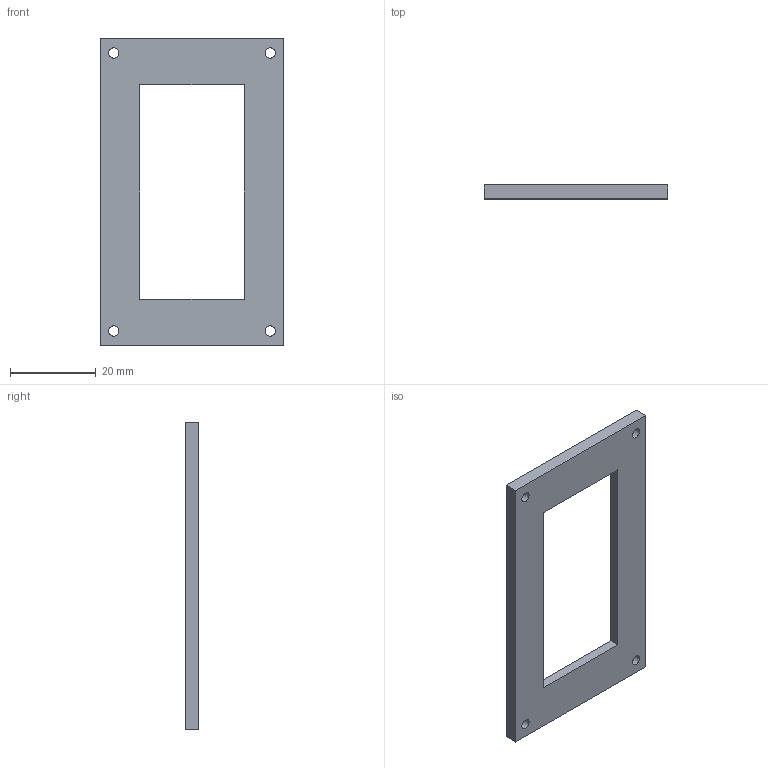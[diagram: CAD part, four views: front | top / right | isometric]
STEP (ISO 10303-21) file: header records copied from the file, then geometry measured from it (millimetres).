
FILE_DESCRIPTION(('Open CASCADE Model'),'2;1');
FILE_NAME('Open CASCADE Shape Model','2026-10-19T02:50:45',('Author'),( 'Open CASCADE'),'Open CASCADE STEP processor 7.9','Open CASCADE 7.9' ,'Unknown');
FILE_SCHEMA(('AUTOMOTIVE_DESIGN { 1 0 10303 214 1 1 1 1 }'));
Length unit declared in the file: millimetre
Products named in the file (1): Open CASCADE STEP translator 7.9 1
Bounding box: 43 x 3.2 x 72 mm (x, y, z)
Volume: 5419.5 mm3; surface area: 5035.6 mm2
Topology: 1 solids, 1 shells, 19 faces, 48 edges, 32 vertices
Faces by surface type: plane 15, cylinder 4
Full cylindrical faces by diameter (mm): 2.4 x4
Entity records: 1200 total; most frequent: CARTESIAN_POINT 220, DIRECTION 168, LINE 104, VECTOR 104, ORIENTED_EDGE 96, PCURVE 96, DEFINITIONAL_REPRESENTATION 96, EDGE_CURVE 48
